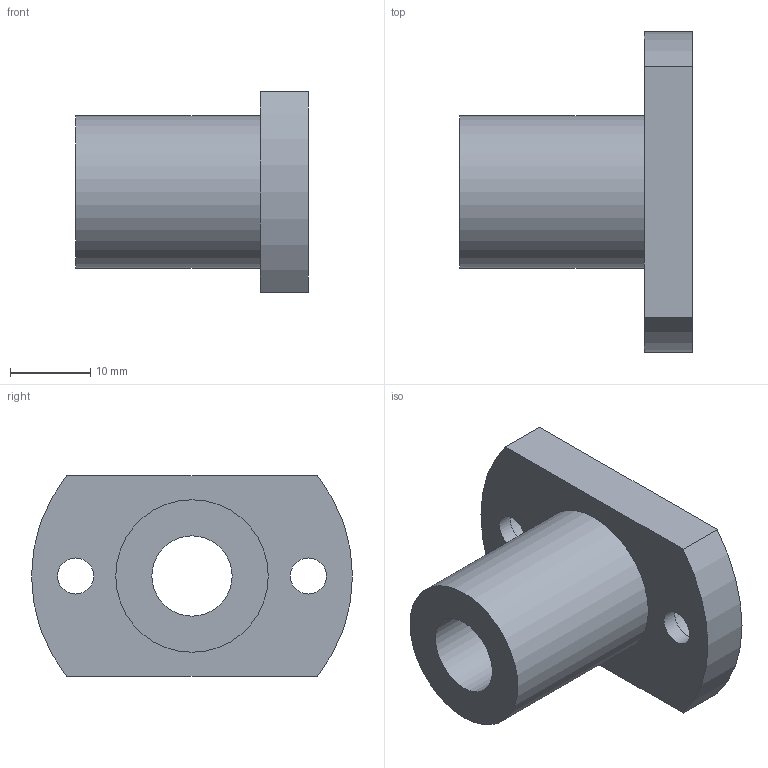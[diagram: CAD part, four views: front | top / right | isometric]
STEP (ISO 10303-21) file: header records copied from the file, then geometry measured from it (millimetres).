
FILE_DESCRIPTION(/* description */ ('Unknown'),/* implementation_level */ '2;1');
FILE_NAME(/* name */ 'LMH10UU',/* time_stamp */ '2025-02-03T14:05:05+08:00',/* author */ ('Unknown'),/* organization */ ('Unknown'),/* preprocessor_version */ 'ST-DEVELOPER v18.102',/* originating_system */ 'Solid Edge',/* authorisation */ 'Unknown');
FILE_SCHEMA (('AUTOMOTIVE_DESIGN {1 0 10303 214 3 1 1}'));
Length unit declared in the file: millimetre
Products named in the file (1): LMH10UU
Bounding box: 29 x 40 x 25 mm (x, y, z)
Volume: 9403.3 mm3; surface area: 4869.8 mm2
Topology: 1 solids, 1 shells, 15 faces, 30 edges, 20 vertices
Faces by surface type: cylinder 8, plane 7
Full cylindrical faces by diameter (mm): 4.5 x2, 7.5 x2, 10 x1, 19 x1
Entity records: 412 total; most frequent: DIRECTION 72, CARTESIAN_POINT 60, ORIENTED_EDGE 48, AXIS2_PLACEMENT_3D 32, EDGE_LOOP 30, FACE_BOUND 30, EDGE_CURVE 24, VERTEX_POINT 20
